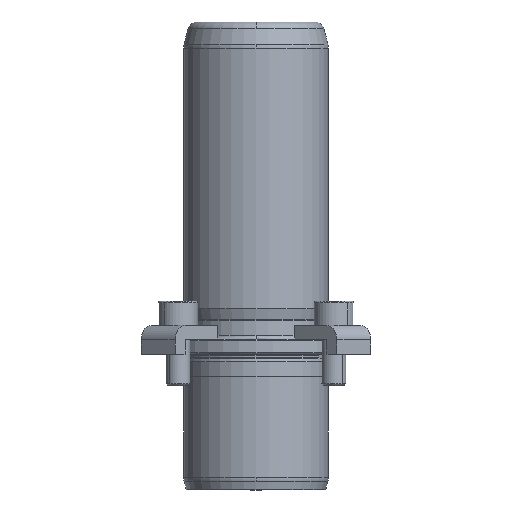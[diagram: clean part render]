
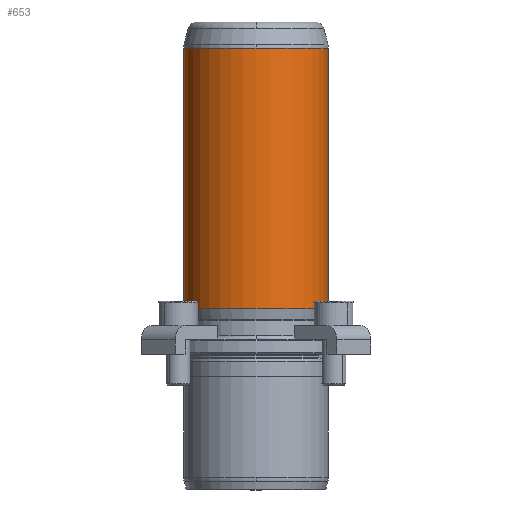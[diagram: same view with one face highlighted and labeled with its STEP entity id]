
A CAD part, front view. The second image highlights one B-rep face of the part: STEP entity #653.
In plain terms, the highlighted cylindrical face has radius 24 mm (diameter 48 mm), a partial arc.
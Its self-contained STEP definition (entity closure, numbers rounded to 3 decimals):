
#566=CARTESIAN_POINT('',(0.0,-24.,101.342));
#567=VERTEX_POINT('',#566);
#594=CARTESIAN_POINT('',(-24.0,0.,101.342));
#595=VERTEX_POINT('',#594);
#603=CARTESIAN_POINT('',(0.0,0.,101.342));
#604=DIRECTION('',(0.0,0.0,1.0));
#605=DIRECTION('',(1.0,0.0,0.0));
#606=AXIS2_PLACEMENT_3D('',#603,#604,#605);
#607=CIRCLE('',#606,24.0);
#608=EDGE_CURVE('',#595,#567,#607,.T.);
#613=CARTESIAN_POINT('',(0.0,0.,58.171));
#614=DIRECTION('',(0.0,0.,1.0));
#615=DIRECTION('',(1.0,0.0,0.0));
#616=AXIS2_PLACEMENT_3D('',#613,#614,#615);
#617=CYLINDRICAL_SURFACE('',#616,24.0);
#618=CARTESIAN_POINT('',(24.0,0.,101.342));
#619=VERTEX_POINT('',#618);
#620=CARTESIAN_POINT('',(24.0,0.,15.0));
#621=VERTEX_POINT('',#620);
#622=CARTESIAN_POINT('',(24.0,0.,101.342));
#623=DIRECTION('',(0.0,0.0,-1.0));
#624=VECTOR('',#623,86.342);
#625=LINE('',#622,#624);
#626=EDGE_CURVE('',#619,#621,#625,.T.);
#627=ORIENTED_EDGE('',*,*,#626,.F.);
#628=CARTESIAN_POINT('',(0.0,0.,101.342));
#629=DIRECTION('',(0.0,0.0,1.0));
#630=DIRECTION('',(1.0,0.0,0.0));
#631=AXIS2_PLACEMENT_3D('',#628,#629,#630);
#632=CIRCLE('',#631,24.0);
#633=EDGE_CURVE('',#567,#619,#632,.T.);
#634=ORIENTED_EDGE('',*,*,#633,.F.);
#635=ORIENTED_EDGE('',*,*,#608,.F.);
#636=CARTESIAN_POINT('',(-24.,0.,15.0));
#637=VERTEX_POINT('',#636);
#638=CARTESIAN_POINT('',(-24.0,0.,101.342));
#639=DIRECTION('',(0.0,0.0,-1.0));
#640=VECTOR('',#639,86.342);
#641=LINE('',#638,#640);
#642=EDGE_CURVE('',#595,#637,#641,.T.);
#643=ORIENTED_EDGE('',*,*,#642,.T.);
#644=CARTESIAN_POINT('',(0.0,0.,15.0));
#645=DIRECTION('',(0.0,0.0,1.0));
#646=DIRECTION('',(1.0,0.0,0.0));
#647=AXIS2_PLACEMENT_3D('',#644,#645,#646);
#648=CIRCLE('',#647,24.0);
#649=EDGE_CURVE('',#637,#621,#648,.T.);
#650=ORIENTED_EDGE('',*,*,#649,.T.);
#651=EDGE_LOOP('',(#627,#634,#635,#643,#650));
#652=FACE_OUTER_BOUND('',#651,.T.);
#653=ADVANCED_FACE('',(#652),#617,.T.);
